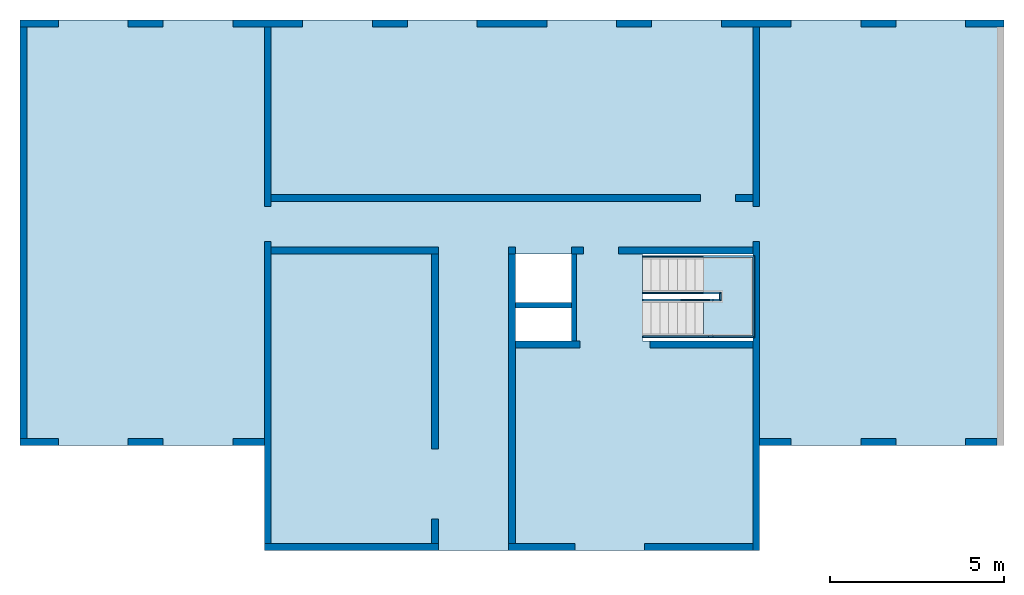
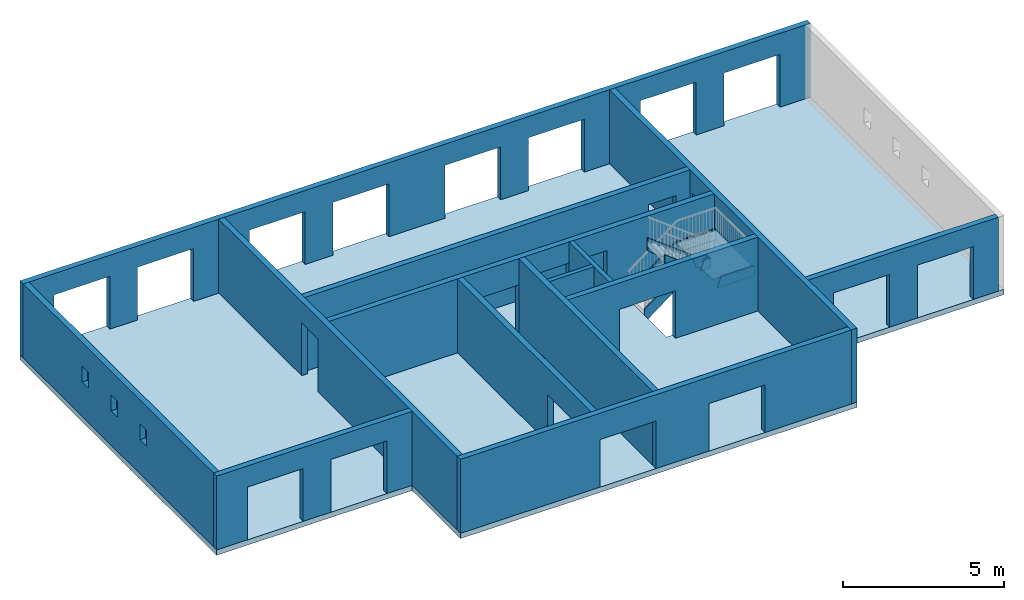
# One storey, part 1 of 3: 14 walls, 10 members, 2 slabs, 28 openings, 1 element without a shape of its own.
"""IFC2X3 building model written with IfcOpenShell, lengths in metres."""

from ifc_helpers import new_model, entity, si_unit, converted_unit, derived_unit, direction, frame, frame_2d, origin, origin_2d_with_axis, place, context, subcontext, project, spatial, polyline, rectangle, outline, extrude, faceted_brep, material, layer, layer_set, layer_usage, type_object, element, aggregate, save


model = new_model("IFC2X3")

# Units and contexts
model_context = context("Model", 3, precision=1e-05, world=origin(), true_north=direction((6.12303176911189e-17, 1.0)))
context_of_model = context(None, 3, precision=1e-05, world=origin(), true_north=direction((6.12303176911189e-17, 1.0)))
body_context = subcontext(model_context, "Body", "Model", "MODEL_VIEW")
ifc_project = project(units=[si_unit("LENGTHUNIT", "METRE"), si_unit("AREAUNIT", "SQUARE_METRE"), si_unit("VOLUMEUNIT", "CUBIC_METRE"), converted_unit("PLANEANGLEUNIT", "DEGREE", entity("IfcRatioMeasure", 0.0174532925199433), si_unit("PLANEANGLEUNIT", "RADIAN"), dimensions=[0, 0, 0, 0, 0, 0, 0]), si_unit("MASSUNIT", "GRAM", prefix="KILO"), derived_unit("MASSDENSITYUNIT", [(si_unit("MASSUNIT", "GRAM", prefix="KILO"), 1), (si_unit("LENGTHUNIT", "METRE"), -3)]), si_unit("TIMEUNIT", "SECOND"), si_unit("FREQUENCYUNIT", "HERTZ"), si_unit("THERMODYNAMICTEMPERATUREUNIT", "DEGREE_CELSIUS"), derived_unit("THERMALTRANSMITTANCEUNIT", [(si_unit("MASSUNIT", "GRAM", prefix="KILO"), 1), (si_unit("THERMODYNAMICTEMPERATUREUNIT", "KELVIN"), -1), (si_unit("TIMEUNIT", "SECOND"), -3)]), derived_unit("VOLUMETRICFLOWRATEUNIT", [(si_unit("LENGTHUNIT", "METRE"), 3), (si_unit("TIMEUNIT", "SECOND"), -1)]), si_unit("ELECTRICCURRENTUNIT", "AMPERE"), si_unit("ELECTRICVOLTAGEUNIT", "VOLT"), si_unit("POWERUNIT", "WATT"), si_unit("FORCEUNIT", "NEWTON"), si_unit("ILLUMINANCEUNIT", "LUX"), si_unit("LUMINOUSFLUXUNIT", "LUMEN"), si_unit("LUMINOUSINTENSITYUNIT", "CANDELA"), derived_unit("USERDEFINED", [(si_unit("MASSUNIT", "GRAM", prefix="KILO"), -1), (si_unit("LENGTHUNIT", "METRE"), -2), (si_unit("TIMEUNIT", "SECOND"), 3), (si_unit("LUMINOUSFLUXUNIT", "LUMEN"), 1)]), derived_unit("LINEARVELOCITYUNIT", [(si_unit("LENGTHUNIT", "METRE"), 1), (si_unit("TIMEUNIT", "SECOND"), -1)]), si_unit("PRESSUREUNIT", "PASCAL"), derived_unit("USERDEFINED", [(si_unit("LENGTHUNIT", "METRE"), -2), (si_unit("MASSUNIT", "GRAM", prefix="KILO"), 1), (si_unit("TIMEUNIT", "SECOND"), -2)])], contexts=[model_context, context_of_model])

# Site, building, storey
site_placement = place(None, origin())
site = spatial("IfcSite", under=ifc_project, at=site_placement, Name="Default", CompositionType="ELEMENT")
building_placement = place(site_placement, origin())
building = spatial("IfcBuilding", under=site, at=building_placement, CompositionType="ELEMENT")
storey_placement = place(building_placement, origin())
storey = spatial("IfcBuildingStorey", under=building, at=storey_placement, Name="Rez de Chaussée", CompositionType="ELEMENT", Elevation=0.0)

# Stair, members
stair_placement = place(storey_placement, origin())
stair = element("IfcStair", 1, at=stair_placement, inside=storey, Name="Escalier assemblé:Escalier", ObjectType="Escalier assemblé:Contremarche 190 mm max marche 250\xa0mm", ShapeType="NOTDEFINED")
member_type = type_object("IfcMemberType", Name="Limon à la française:Limon à la française - 50 mm de largeur", PredefinedType="STRINGER")
member_1_placement = place(stair_placement, origin())
member_1 = element("IfcMember", 2, at=member_1_placement, type_object=member_type, Name="Escalier assemblé:Escalier:467169 Stringer 1", ObjectType="Escalier assemblé:Contremarche 190 mm max marche 250\xa0mm", context=body_context, shape_type="SweptSolid", body=[
    extrude(outline(polyline([(-0.973212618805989, -0.2), (1.19067644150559, -0.2), (1.0569252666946, 0.199999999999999), (-1.27438908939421, 0.2), (-0.973212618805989, -0.2)])), frame((6.43043564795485, 2.2618101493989, 0.85311287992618), z_axis=(0.0, 1.0, 0.0), x_axis=(0.798870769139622, 0.0, 0.601502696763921)), (0.0, 0.0, 1.0), 0.05),
])
member_2_placement = place(stair_placement, origin())
member_2 = element("IfcMember", 3, at=member_2_placement, type_object=member_type, Name="Escalier assemblé:Escalier:467169 Stringer 2", ObjectType="Escalier assemblé:Contremarche 190 mm max marche 250\xa0mm", context=body_context, shape_type="SweptSolid", body=[
    extrude(outline(polyline([(-0.973212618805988, -0.2), (1.19067644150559, -0.2), (1.0569252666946, 0.2), (-1.27438908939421, 0.2), (-0.973212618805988, -0.2)])), frame((6.43043564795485, 1.2118101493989, 0.853112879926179), z_axis=(0.0, 1.0, 0.0), x_axis=(0.798870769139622, 0.0, 0.601502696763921)), (0.0, 0.0, 1.0), 0.0500000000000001),
])
member_3_placement = place(stair_placement, origin())
member_3 = element("IfcMember", 4, at=member_3_placement, type_object=member_type, Name="Escalier assemblé:Escalier:467169 Stringer 3", ObjectType="Escalier assemblé:Contremarche 190 mm max marche 250\xa0mm", context=body_context, shape_type="SweptSolid", body=[
    extrude(outline(polyline([(-1.2901377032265, -0.2), (1.0726738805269, -0.2), (1.37385035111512, 0.200000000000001), (-1.15638652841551, 0.2), (-1.2901377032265, -0.2)])), frame((6.50989234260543, -0.0381898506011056, 2.26487758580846), z_axis=(0.0, 1.0, 0.0), x_axis=(-0.798870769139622, 0.0, 0.601502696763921)), (0.0, 0.0, 1.0), 0.05),
])
member_4_placement = place(stair_placement, origin())
member_4 = element("IfcMember", 5, at=member_4_placement, type_object=member_type, Name="Escalier assemblé:Escalier:467169 Stringer 4", ObjectType="Escalier assemblé:Contremarche 190 mm max marche 250\xa0mm", context=body_context, shape_type="SweptSolid", body=[
    extrude(outline(polyline([(-1.2901377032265, -0.2), (1.0726738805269, -0.2), (1.37385035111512, 0.2), (-1.15638652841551, 0.2), (-1.2901377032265, -0.2)])), frame((6.50989234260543, 1.01181014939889, 2.26487758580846), z_axis=(0.0, 1.0, 0.0), x_axis=(-0.798870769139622, 0.0, 0.60150269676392)), (0.0, 0.0, 1.0), 0.05),
])
member_5_placement = place(stair_placement, frame((7.42024510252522, -0.0381898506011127, 1.32908212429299)))
member_5 = element("IfcMember", 6, at=member_5_placement, type_object=member_type, Name="Escalier assemblé:Escalier:467169 Stringer 5", ObjectType="Escalier assemblé:Contremarche 190 mm max marche 250\xa0mm", context=body_context, shape_type="Brep", body=[
    faceted_brep([(0.133751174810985, 0.0500000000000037, 0.4), (0.133751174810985, 0.0, 0.4), (1.32241889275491, 0.0, 0.4), (1.27241889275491, 0.0500000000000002, 0.4), (0.0, 0.0500000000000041, 0.0), (1.27241889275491, 0.0500000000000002, 0.0), (0.0, 0.0, 0.0), (1.32241889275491, 0.0, 0.0)], [[[0, 1, 2, 3]], [[4, 0, 3, 5]], [[6, 4, 5, 7]], [[1, 6, 7, 2]], [[1, 0, 4, 6]], [[2, 7, 5, 3]]]),
])
member_6_placement = place(stair_placement, origin())
member_6 = element("IfcMember", 7, at=member_6_placement, type_object=member_type, Name="Escalier assemblé:Escalier:467169 Stringer 6", ObjectType="Escalier assemblé:Contremarche 190 mm max marche 250\xa0mm", context=body_context, shape_type="SweptSolid", body=[
    extrude(outline(polyline([(-1.17500000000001, -0.0249999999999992), (1.17500000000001, -0.0249999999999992), (1.125, 0.0250000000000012), (-1.125, 0.0250000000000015), (-1.17500000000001, -0.0249999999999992)])), frame((8.71766399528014, 1.13681014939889, 1.32908212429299), z_axis=(0.0, 0.0, 1.0), x_axis=(0.0, 1.0, 0.0)), (0.0, 0.0, 1.0), 0.4),
])
member_7_placement = place(stair_placement, frame((7.26133171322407, 2.2618101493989, 1.32908212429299)))
member_7 = element("IfcMember", 8, at=member_7_placement, type_object=member_type, Name="Escalier assemblé:Escalier:467169 Stringer 7", ObjectType="Escalier assemblé:Contremarche 190 mm max marche 250\xa0mm", context=body_context, shape_type="Brep", body=[
    faceted_brep([(1.43133228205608, 0.0, 0.4), (1.48133228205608, 0.0499999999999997, 0.4), (0.0, 0.0500000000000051, 0.4), (0.0, 0.0, 0.4), (1.43133228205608, 0.0, 0.0), (0.133751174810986, 0.0, 0.0), (1.48133228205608, 0.0499999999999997, 0.0), (0.133751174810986, 0.0500000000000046, 0.0)], [[[0, 1, 2, 3]], [[4, 0, 3, 5]], [[6, 4, 5, 7]], [[1, 6, 7, 2]], [[1, 0, 4, 6]], [[2, 7, 5, 3]]]),
])
member_8_placement = place(stair_placement, frame((7.26133171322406, 1.2118101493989, 1.32908212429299)))
member_8 = element("IfcMember", 9, at=member_8_placement, type_object=member_type, Name="Escalier assemblé:Escalier:467169 Stringer 8", ObjectType="Escalier assemblé:Contremarche 190 mm max marche 250\xa0mm", context=body_context, shape_type="Brep", body=[
    faceted_brep([(0.0, 0.0500000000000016, 0.4), (0.0, 0.0, 0.4), (0.471332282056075, 0.0, 0.4), (0.521332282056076, 0.0499999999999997, 0.4), (0.133751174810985, 0.0500000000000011, 0.0), (0.521332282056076, 0.0499999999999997, 0.0), (0.133751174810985, 0.0, 0.0), (0.471332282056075, 0.0, 0.0)], [[[0, 1, 2, 3]], [[4, 0, 3, 5]], [[6, 4, 5, 7]], [[1, 6, 7, 2]], [[1, 0, 4, 6]], [[2, 7, 5, 3]]]),
])
member_9_placement = place(stair_placement, origin())
member_9 = element("IfcMember", 10, at=member_9_placement, type_object=member_type, Name="Escalier assemblé:Escalier:467169 Stringer 9", ObjectType="Escalier assemblé:Contremarche 190 mm max marche 250\xa0mm", context=body_context, shape_type="SweptSolid", body=[
    extrude(outline(polyline([(-0.0750000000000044, -0.0250000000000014), (0.0750000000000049, -0.0250000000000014), (0.125000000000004, 0.0249999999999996), (-0.125000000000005, 0.0249999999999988), (-0.0750000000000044, -0.0250000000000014)])), frame((7.75766399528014, 1.13681014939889, 1.32908212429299), z_axis=(0.0, 0.0, 1.0), x_axis=(0.0, -1.0, 0.0)), (0.0, 0.0, 1.0), 0.4),
])
member_10_placement = place(stair_placement, frame((7.42024510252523, 1.01181014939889, 1.32908212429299)))
member_10 = element("IfcMember", 11, at=member_10_placement, type_object=member_type, Name="Escalier assemblé:Escalier:467169 Stringer 10", ObjectType="Escalier assemblé:Contremarche 190 mm max marche 250\xa0mm", context=body_context, shape_type="Brep", body=[
    faceted_brep([(0.362418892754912, 0.0, 0.4), (0.312418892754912, 0.0500000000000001, 0.4), (0.133751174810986, 0.0500000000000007, 0.4), (0.133751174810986, 0.0, 0.4), (0.362418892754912, 0.0, 0.0), (0.0, 0.0, 0.0), (0.312418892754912, 0.0500000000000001, 0.0), (0.0, 0.0500000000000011, 0.0)], [[[0, 1, 2, 3]], [[4, 0, 3, 5]], [[6, 4, 5, 7]], [[1, 6, 7, 2]], [[1, 0, 4, 6]], [[2, 7, 5, 3]]]),
])

# Slab, openings
ifc_material_1 = material(Name="Béton - Coulé sur place - Béton20")
ifc_layer_1 = layer(ifc_material_1, 0.2)
ifc_layer_set_1 = layer_set([ifc_layer_1], Name="Sol:Dalle pleine 200 mm")
ifc_layer_usage_1 = layer_usage(ifc_layer_set_1, "AXIS3", "POSITIVE", 0.0)
slab_1_placement = place(storey_placement, origin())
slab_1 = element("IfcSlab", 12, at=slab_1_placement, inside=storey, material=ifc_layer_usage_1, Name="Sol:Dalle pleine 200 mm", ObjectType="Sol:Dalle pleine 200 mm", PredefinedType="FLOOR", context=body_context, shape_type="SweptSolid", body=[
    extrude(outline(polyline([(-14.1, 7.59999999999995), (-14.1, -4.60000000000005), (-7.1, -4.60000000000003), (-7.09999999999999, -7.60000000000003), (7.10000000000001, -7.59999999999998), (7.10000000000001, -4.59999999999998), (14.1, -4.59999999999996), (14.1, 7.60000000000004), (-14.1, 7.59999999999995)])), frame((1.79266399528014, 1.46181014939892, 0.2), z_axis=(0.0, 0.0, -1.0), x_axis=(-1.0, 0.0, 0.0)), (0.0, 0.0, 1.0), 0.2),
])
opening_1_placement = place(slab_1_placement, frame((2.69266399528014, 1.66181014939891, 0.2)))
element("IfcOpeningElement", 13, at=opening_1_placement, cuts=slab_1, Name="Sol:Dalle pleine 200 mm:2", ObjectType="Opening", context=body_context, shape_type="SweptSolid", body=[
    extrude(rectangle(XDim=1.4, YDim=1.6, at=origin_2d_with_axis()), frame((0.0, 0.0, 0.0), z_axis=(0.0, 0.0, -1.0), x_axis=(0.0, -1.0, 0.0)), (0.0, 0.0, 1.0), 0.2),
])
opening_2_placement = place(slab_1_placement, frame((2.69266399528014, 0.336810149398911, 0.2)))
element("IfcOpeningElement", 14, at=opening_2_placement, cuts=slab_1, Name="Sol:Dalle pleine 200 mm:3", ObjectType="Opening", context=body_context, shape_type="SweptSolid", body=[
    extrude(rectangle(XDim=0.95, YDim=1.6, at=origin_2d_with_axis()), frame((0.0, 0.0, 0.0), z_axis=(0.0, 0.0, -1.0), x_axis=(0.0, -1.0, 0.0)), (0.0, 0.0, 1.0), 0.2),
])
opening_3_placement = place(slab_1_placement, frame((7.11266399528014, 1.1118101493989, 0.2)))
element("IfcOpeningElement", 15, at=opening_3_placement, cuts=slab_1, Name="Sol:Dalle pleine 200 mm:4", ObjectType="Opening", context=body_context, shape_type="SweptSolid", body=[
    extrude(rectangle(XDim=3.16, YDim=2.49999999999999, at=origin_2d_with_axis()), frame((0.0, 0.0, 0.0), z_axis=(0.0, 0.0, -1.0), x_axis=(1.0, 0.0, 0.0)), (0.0, 0.0, 1.0), 0.2),
])

# Slab
slab_2_placement = place(stair_placement, origin())
slab_2 = element("IfcSlab", 16, at=slab_2_placement, Name="Escalier assemblé:Escalier:467169 Landing 1", ObjectType="Escalier assemblé:Contremarche 190 mm max marche 250\xa0mm", PredefinedType="LANDING", context=body_context, shape_type="SweptSolid", body=[
    extrude(outline(polyline([(-1.125, -0.477500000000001), (-0.125000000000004, -0.477500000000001), (-0.125000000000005, 0.0225000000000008), (0.125000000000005, 0.0225000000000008), (0.125000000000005, -0.477499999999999), (1.12500000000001, -0.477499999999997), (1.125, 0.932500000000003), (-1.12500000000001, 0.932500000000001), (-1.125, -0.477500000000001)])), frame((7.76016399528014, 1.1368101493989, 1.63235294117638), z_axis=(0.0, 0.0, 1.0), x_axis=(0.0, -1.0, 0.0)), (0.0, 0.0, 1.0), 0.05),
])

aggregate(stair, [slab_2, member_1, member_2, member_3, member_4, member_5, member_6, member_7, member_8, member_9, member_10])

# Wall, openings
ifc_layer_2 = layer(ifc_material_1, 0.2)
ifc_layer_set_2 = layer_set([ifc_layer_2], Name="Mur de base:Générique - 200 mm")
ifc_layer_usage_2 = layer_usage(ifc_layer_set_2, "AXIS2", "NEGATIVE", 0.1)
wall_type_1 = type_object("IfcWallType", Name="Mur de base:Générique - 200 mm", PredefinedType="STANDARD", material=ifc_layer_set_2)
wall_1_placement = place(storey_placement, frame((-12.3073360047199, 8.96181014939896, 0.2)))
wall_1 = element("IfcWallStandardCase", 17, at=wall_1_placement, inside=storey, type_object=wall_type_1, material=ifc_layer_usage_2, Name="Mur de base:Générique - 200 mm", ObjectType="Mur de base:Générique - 200 mm:1044", context=body_context, shape_type="SweptSolid", body=[
    extrude(rectangle(XDim=28.2, YDim=0.2, at=frame_2d((14.1, 3.19189119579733e-16), x_axis=(-1.0, 0.0))), origin(), (0.0, 0.0, 1.0), 2.80000000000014),
])
opening_4_placement = place(wall_1_placement, frame((25.1, -0.0999999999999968, 0.0)))
element("IfcOpeningElement", 18, at=opening_4_placement, cuts=wall_1, Name="M_Porte-Ouverture:2000 x 2000 mm:1", ObjectType="Opening", context=body_context, shape_type="SweptSolid", body=[
    extrude(rectangle(XDim=2.0, YDim=2.0, at=frame_2d((1.0, 1.0), x_axis=(-1.0, 0.0))), frame((0.0, 0.0, 0.0), z_axis=(0.0, 1.0, 0.0), x_axis=(0.0, 0.0, 1.0)), (0.0, 0.0, 1.0), 0.2),
])
opening_5_placement = place(wall_1_placement, frame((22.1, -0.10000000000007, 0.0)))
element("IfcOpeningElement", 19, at=opening_5_placement, cuts=wall_1, Name="M_Porte-Ouverture:2000 x 2000 mm:1", ObjectType="Opening", context=body_context, shape_type="SweptSolid", body=[
    extrude(rectangle(XDim=2.0, YDim=2.0, at=frame_2d((1.0, 1.0), x_axis=(-1.0, 0.0))), frame((0.0, 0.0, 0.0), z_axis=(0.0, 1.0, 0.0), x_axis=(0.0, 0.0, 1.0)), (0.0, 0.0, 1.0), 0.2),
])
opening_6_placement = place(wall_1_placement, frame((1.10000000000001, -0.0999999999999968, 0.0)))
element("IfcOpeningElement", 20, at=opening_6_placement, cuts=wall_1, Name="M_Porte-Ouverture:2000 x 2000 mm:1", ObjectType="Opening", context=body_context, shape_type="SweptSolid", body=[
    extrude(rectangle(XDim=2.0, YDim=2.0, at=frame_2d((1.0, 1.0), x_axis=(-1.0, 0.0))), frame((0.0, 0.0, 0.0), z_axis=(0.0, 1.0, 0.0), x_axis=(0.0, 0.0, 1.0)), (0.0, 0.0, 1.0), 0.2),
])
opening_7_placement = place(wall_1_placement, frame((4.1, -0.0999999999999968, 0.0)))
element("IfcOpeningElement", 21, at=opening_7_placement, cuts=wall_1, Name="M_Porte-Ouverture:2000 x 2000 mm:1", ObjectType="Opening", context=body_context, shape_type="SweptSolid", body=[
    extrude(rectangle(XDim=2.0, YDim=2.0, at=frame_2d((1.0, 1.0), x_axis=(-1.0, 0.0))), frame((0.0, 0.0, 0.0), z_axis=(0.0, 1.0, 0.0), x_axis=(0.0, 0.0, 1.0)), (0.0, 0.0, 1.0), 0.2),
])
opening_8_placement = place(wall_1_placement, frame((8.1, -0.0999999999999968, 0.0)))
element("IfcOpeningElement", 22, at=opening_8_placement, cuts=wall_1, Name="M_Porte-Ouverture:2000 x 2000 mm:1", ObjectType="Opening", context=body_context, shape_type="SweptSolid", body=[
    extrude(rectangle(XDim=2.0, YDim=2.0, at=frame_2d((1.0, 1.0), x_axis=(-1.0, 0.0))), frame((0.0, 0.0, 0.0), z_axis=(0.0, 1.0, 0.0), x_axis=(0.0, 0.0, 1.0)), (0.0, 0.0, 1.0), 0.2),
])
opening_9_placement = place(wall_1_placement, frame((18.1, -0.100000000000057, 0.0)))
element("IfcOpeningElement", 23, at=opening_9_placement, cuts=wall_1, Name="M_Porte-Ouverture:2000 x 2000 mm:1", ObjectType="Opening", context=body_context, shape_type="SweptSolid", body=[
    extrude(rectangle(XDim=2.0, YDim=2.0, at=frame_2d((1.0, 1.0), x_axis=(-1.0, 0.0))), frame((0.0, 0.0, 0.0), z_axis=(0.0, 1.0, 0.0), x_axis=(0.0, 0.0, 1.0)), (0.0, 0.0, 1.0), 0.2),
])
opening_10_placement = place(wall_1_placement, frame((15.1, -0.100000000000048, 0.0)))
element("IfcOpeningElement", 24, at=opening_10_placement, cuts=wall_1, Name="M_Porte-Ouverture:2000 x 2000 mm:1", ObjectType="Opening", context=body_context, shape_type="SweptSolid", body=[
    extrude(rectangle(XDim=2.0, YDim=2.0, at=frame_2d((1.0, 1.0), x_axis=(-1.0, 0.0))), frame((0.0, 0.0, 0.0), z_axis=(0.0, 1.0, 0.0), x_axis=(0.0, 0.0, 1.0)), (0.0, 0.0, 1.0), 0.2),
])
opening_11_placement = place(wall_1_placement, frame((11.1, -0.100000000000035, 0.0)))
element("IfcOpeningElement", 25, at=opening_11_placement, cuts=wall_1, Name="M_Porte-Ouverture:2000 x 2000 mm:1", ObjectType="Opening", context=body_context, shape_type="SweptSolid", body=[
    extrude(rectangle(XDim=2.0, YDim=2.0, at=frame_2d((1.0, 1.0), x_axis=(-1.0, 0.0))), frame((0.0, 0.0, 0.0), z_axis=(0.0, 1.0, 0.0), x_axis=(0.0, 0.0, 1.0)), (0.0, 0.0, 1.0), 0.2),
])

ifc_layer_usage_3 = layer_usage(ifc_layer_set_2, "AXIS2", "NEGATIVE", 0.1)
wall_2_placement = place(storey_placement, frame((15.6926639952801, -3.03818985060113, 0.2), z_axis=(0.0, 0.0, 1.0), x_axis=(-1.0, 0.0, 0.0)))
wall_2 = element("IfcWallStandardCase", 26, at=wall_2_placement, inside=storey, type_object=wall_type_1, material=ifc_layer_usage_3, Name="Mur de base:Générique - 200 mm", ObjectType="Mur de base:Générique - 200 mm:1044", context=body_context, shape_type="SweptSolid", body=[
    extrude(rectangle(XDim=6.8, YDim=0.2, at=frame_2d((3.4, 2.22044604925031e-16), x_axis=(-1.0, 0.0))), origin(), (0.0, 0.0, 1.0), 2.80000000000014),
])
opening_12_placement = place(wall_2_placement, frame((3.9, -0.100000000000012, 0.0)))
element("IfcOpeningElement", 27, at=opening_12_placement, cuts=wall_2, Name="M_Porte-Ouverture:2000 x 2000 mm:1", ObjectType="Opening", context=body_context, shape_type="SweptSolid", body=[
    extrude(rectangle(XDim=2.0, YDim=2.0, at=frame_2d((1.0, 1.0), x_axis=(-1.0, 0.0))), frame((0.0, 0.0, 0.0), z_axis=(0.0, 1.0, 0.0), x_axis=(0.0, 0.0, 1.0)), (0.0, 0.0, 1.0), 0.2),
])
opening_13_placement = place(wall_2_placement, frame((0.899999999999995, -0.100000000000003, 0.0)))
element("IfcOpeningElement", 28, at=opening_13_placement, cuts=wall_2, Name="M_Porte-Ouverture:2000 x 2000 mm:1", ObjectType="Opening", context=body_context, shape_type="SweptSolid", body=[
    extrude(rectangle(XDim=2.0, YDim=2.0, at=frame_2d((1.0, 1.0), x_axis=(-1.0, 0.0))), frame((0.0, 0.0, 0.0), z_axis=(0.0, 1.0, 0.0), x_axis=(0.0, 0.0, 1.0)), (0.0, 0.0, 1.0), 0.2),
])

# Wall, opening
ifc_layer_usage_4 = layer_usage(ifc_layer_set_2, "AXIS2", "NEGATIVE", 0.1)
wall_3_placement = place(storey_placement, frame((8.79266399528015, 8.86181014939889, 0.2), z_axis=(0.0, 0.0, 1.0), x_axis=(0.0, -1.0, 0.0)))
wall_3 = element("IfcWallStandardCase", 29, at=wall_3_placement, inside=storey, type_object=wall_type_1, material=ifc_layer_usage_4, Name="Mur de base:Générique - 200 mm", ObjectType="Mur de base:Générique - 200 mm:1044", context=body_context, shape_type="SweptSolid", body=[
    extrude(rectangle(XDim=15.0, YDim=0.2, at=frame_2d((7.5, 0.0), x_axis=(-1.0, 0.0))), origin(), (0.0, 0.0, 1.0), 2.80000000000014),
])
opening_14_placement = place(wall_3_placement, frame((5.15, -0.100000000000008, 0.0)))
element("IfcOpeningElement", 30, at=opening_14_placement, cuts=wall_3, Name="M_Porte-Ouverture:1000 x 2000 mm:1", ObjectType="Opening", context=body_context, shape_type="SweptSolid", body=[
    extrude(rectangle(XDim=2.0, YDim=1.0, at=frame_2d((1.0, 0.5), x_axis=(-1.0, 0.0))), frame((0.0, 0.0, 0.0), z_axis=(0.0, 1.0, 0.0), x_axis=(0.0, 0.0, 1.0)), (0.0, 0.0, 1.0), 0.2),
])

# Wall, openings
ifc_layer_usage_5 = layer_usage(ifc_layer_set_2, "AXIS2", "NEGATIVE", 0.1)
wall_4_placement = place(storey_placement, frame((8.69266399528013, -6.03818985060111, 0.2), z_axis=(0.0, 0.0, 1.0), x_axis=(-1.0, 0.0, 0.0)))
wall_4 = element("IfcWallStandardCase", 31, at=wall_4_placement, inside=storey, type_object=wall_type_1, material=ifc_layer_usage_5, Name="Mur de base:Générique - 200 mm", ObjectType="Mur de base:Générique - 200 mm:1044", context=body_context, shape_type="SweptSolid", body=[
    extrude(rectangle(XDim=14.0, YDim=0.2, at=frame_2d((7.0, 0.0), x_axis=(-1.0, 0.0))), origin(), (0.0, 0.0, 1.0), 2.80000000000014),
])
opening_15_placement = place(wall_4_placement, frame((7.0, -0.0999999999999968, -0.2)))
element("IfcOpeningElement", 32, at=opening_15_placement, cuts=wall_4, Name="M_Porte-Ouverture:2000 x 2000 mm:1", ObjectType="Opening", context=body_context, shape_type="SweptSolid", body=[
    extrude(rectangle(XDim=2.0, YDim=2.0, at=frame_2d((1.0, 1.0), x_axis=(-1.0, 0.0))), frame((0.0, 0.0, 0.0), z_axis=(0.0, 1.0, 0.0), x_axis=(0.0, 0.0, 1.0)), (0.0, 0.0, 1.0), 0.2),
])
opening_16_placement = place(wall_4_placement, frame((3.10000000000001, -0.100000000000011, -0.2)))
element("IfcOpeningElement", 33, at=opening_16_placement, cuts=wall_4, Name="M_Porte-Ouverture:2000 x 2000 mm:1", ObjectType="Opening", context=body_context, shape_type="SweptSolid", body=[
    extrude(rectangle(XDim=2.0, YDim=2.0, at=frame_2d((1.0, 1.0), x_axis=(-1.0, 0.0))), frame((0.0, 0.0, 0.0), z_axis=(0.0, 1.0, 0.0), x_axis=(0.0, 0.0, 1.0)), (0.0, 0.0, 1.0), 0.2),
])

# Wall, opening
ifc_layer_usage_6 = layer_usage(ifc_layer_set_2, "AXIS2", "NEGATIVE", 0.1)
wall_5_placement = place(storey_placement, frame((-5.20733600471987, -5.93818985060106, 0.2), z_axis=(0.0, 0.0, 1.0), x_axis=(0.0, 1.0, 0.0)))
wall_5 = element("IfcWallStandardCase", 34, at=wall_5_placement, inside=storey, type_object=wall_type_1, material=ifc_layer_usage_6, Name="Mur de base:Générique - 200 mm", ObjectType="Mur de base:Générique - 200 mm:1044", context=body_context, shape_type="SweptSolid", body=[
    extrude(rectangle(XDim=14.8, YDim=0.2, at=frame_2d((7.4, -1.66533453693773e-16), x_axis=(-1.0, 0.0))), origin(), (0.0, 0.0, 1.0), 2.80000000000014),
])
opening_17_placement = place(wall_5_placement, frame((8.65, -0.0999999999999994, 0.0)))
element("IfcOpeningElement", 35, at=opening_17_placement, cuts=wall_5, Name="M_Porte-Ouverture:1000 x 2000 mm:1", ObjectType="Opening", context=body_context, shape_type="SweptSolid", body=[
    extrude(rectangle(XDim=2.0, YDim=1.0, at=frame_2d((1.0, 0.500000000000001), x_axis=(-1.0, 0.0))), frame((0.0, 0.0, 0.0), z_axis=(0.0, 1.0, 0.0), x_axis=(0.0, 0.0, 1.0)), (0.0, 0.0, 1.0), 0.2),
])

# Wall, openings
ifc_layer_usage_7 = layer_usage(ifc_layer_set_2, "AXIS2", "NEGATIVE", 0.1)
wall_6_placement = place(storey_placement, frame((-5.30733600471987, -3.03818985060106, 0.2), z_axis=(0.0, 0.0, 1.0), x_axis=(-1.0, 0.0, 0.0)))
wall_6 = element("IfcWallStandardCase", 36, at=wall_6_placement, inside=storey, type_object=wall_type_1, material=ifc_layer_usage_7, Name="Mur de base:Générique - 200 mm", ObjectType="Mur de base:Générique - 200 mm:1044", context=body_context, shape_type="SweptSolid", body=[
    extrude(rectangle(XDim=7.0, YDim=0.2, at=frame_2d((3.5, 0.0), x_axis=(-1.0, 0.0))), origin(), (0.0, 0.0, 1.0), 2.80000000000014),
])
opening_18_placement = place(wall_6_placement, frame((3.9, -0.100000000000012, 0.0)))
element("IfcOpeningElement", 37, at=opening_18_placement, cuts=wall_6, Name="M_Porte-Ouverture:2000 x 2000 mm:1", ObjectType="Opening", context=body_context, shape_type="SweptSolid", body=[
    extrude(rectangle(XDim=2.0, YDim=2.0, at=frame_2d((1.0, 1.0), x_axis=(-1.0, 0.0))), frame((0.0, 0.0, 0.0), z_axis=(0.0, 1.0, 0.0), x_axis=(0.0, 0.0, 1.0)), (0.0, 0.0, 1.0), 0.2),
])
opening_19_placement = place(wall_6_placement, frame((0.900000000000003, -0.100000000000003, 0.0)))
element("IfcOpeningElement", 38, at=opening_19_placement, cuts=wall_6, Name="M_Porte-Ouverture:2000 x 2000 mm:1", ObjectType="Opening", context=body_context, shape_type="SweptSolid", body=[
    extrude(rectangle(XDim=2.0, YDim=2.0, at=frame_2d((1.0, 1.0), x_axis=(-1.0, 0.0))), frame((0.0, 0.0, 0.0), z_axis=(0.0, 1.0, 0.0), x_axis=(0.0, 0.0, 1.0)), (0.0, 0.0, 1.0), 0.2),
])

ifc_layer_usage_8 = layer_usage(ifc_layer_set_2, "AXIS2", "NEGATIVE", 0.1)
wall_7_placement = place(storey_placement, frame((-12.2073360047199, -2.93818985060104, 0.2), z_axis=(0.0, 0.0, 1.0), x_axis=(0.0, 1.0, 0.0)))
wall_7 = element("IfcWallStandardCase", 39, at=wall_7_placement, inside=storey, type_object=wall_type_1, material=ifc_layer_usage_8, Name="Mur de base:Générique - 200 mm", ObjectType="Mur de base:Générique - 200 mm:1044", context=body_context, shape_type="SweptSolid", body=[
    extrude(rectangle(XDim=11.8, YDim=0.199999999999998, at=frame_2d((5.9, -1.59594559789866e-16), x_axis=(-1.0, 0.0))), origin(), (0.0, 0.0, 1.0), 2.80000000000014),
])
opening_20_placement = place(wall_7_placement, frame((5.95, -0.1, 1.3)))
element("IfcOpeningElement", 40, at=opening_20_placement, cuts=wall_7, Name="M_Fenêtre-Ouverture carrée:0400 x 600mm:1", ObjectType="Opening", context=body_context, shape_type="SweptSolid", body=[
    extrude(rectangle(XDim=0.6, YDim=0.4, at=frame_2d((0.3, 0.2), x_axis=(-1.0, 0.0))), frame((0.0, 0.0, 0.0), z_axis=(0.0, 1.0, 0.0), x_axis=(0.0, 0.0, 1.0)), (0.0, 0.0, 1.0), 0.2),
])
opening_21_placement = place(wall_7_placement, frame((7.75, -0.1, 1.3)))
element("IfcOpeningElement", 41, at=opening_21_placement, cuts=wall_7, Name="M_Fenêtre-Ouverture carrée:0400 x 600mm:1", ObjectType="Opening", context=body_context, shape_type="SweptSolid", body=[
    extrude(rectangle(XDim=0.6, YDim=0.4, at=frame_2d((0.3, 0.2), x_axis=(-1.0, 0.0))), frame((0.0, 0.0, 0.0), z_axis=(0.0, 1.0, 0.0), x_axis=(0.0, 0.0, 1.0)), (0.0, 0.0, 1.0), 0.2),
])
opening_22_placement = place(wall_7_placement, frame((4.15, -0.1, 1.3)))
element("IfcOpeningElement", 42, at=opening_22_placement, cuts=wall_7, Name="M_Fenêtre-Ouverture carrée:0400 x 600mm:1", ObjectType="Opening", context=body_context, shape_type="SweptSolid", body=[
    extrude(rectangle(XDim=0.6, YDim=0.4, at=frame_2d((0.3, 0.2), x_axis=(-1.0, 0.0))), frame((0.0, 0.0, 0.0), z_axis=(0.0, 1.0, 0.0), x_axis=(0.0, 0.0, 1.0)), (0.0, 0.0, 1.0), 0.2),
])

# Wall, opening
ifc_layer_usage_9 = layer_usage(ifc_layer_set_2, "AXIS2", "NEGATIVE", 0.1)
wall_8_placement = place(storey_placement, frame((-5.10733600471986, 3.96181014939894, 0.2)))
wall_8 = element("IfcWallStandardCase", 43, at=wall_8_placement, inside=storey, type_object=wall_type_1, material=ifc_layer_usage_9, Name="Mur de base:Générique - 200 mm", ObjectType="Mur de base:Générique - 200 mm:1044", context=body_context, shape_type="SweptSolid", body=[
    extrude(rectangle(XDim=13.8, YDim=0.2, at=frame_2d((6.9, 2.22044604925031e-16), x_axis=(-1.0, 0.0))), origin(), (0.0, 0.0, 1.0), 2.80000000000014),
])
opening_23_placement = place(wall_8_placement, frame((12.3, -0.0999999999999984, 0.0)))
element("IfcOpeningElement", 44, at=opening_23_placement, cuts=wall_8, Name="M_Porte-Ouverture:1000 x 2000 mm:1", ObjectType="Opening", context=body_context, shape_type="SweptSolid", body=[
    extrude(rectangle(XDim=2.0, YDim=1.0, at=frame_2d((1.0, 0.500000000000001), x_axis=(-1.0, 0.0))), frame((0.0, 0.0, 0.0), z_axis=(0.0, 1.0, 0.0), x_axis=(0.0, 0.0, 1.0)), (0.0, 0.0, 1.0), 0.2),
])

# Wall, openings
ifc_layer_usage_10 = layer_usage(ifc_layer_set_2, "AXIS2", "NEGATIVE", 0.1)
wall_9_placement = place(storey_placement, frame((8.69266399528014, 2.46181014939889, 0.2), z_axis=(0.0, 0.0, 1.0), x_axis=(-1.0, 0.0, 0.0)))
wall_9 = element("IfcWallStandardCase", 45, at=wall_9_placement, inside=storey, type_object=wall_type_1, material=ifc_layer_usage_10, Name="Mur de base:Générique - 200 mm", ObjectType="Mur de base:Générique - 200 mm:1044", context=body_context, shape_type="SweptSolid", body=[
    extrude(rectangle(XDim=13.8, YDim=0.2, at=frame_2d((6.9, 8.32667268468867e-17), x_axis=(-1.0, 0.0))), origin(), (0.0, 0.0, 1.0), 2.80000000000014),
])
opening_24_placement = place(wall_9_placement, frame((3.85, -0.0999999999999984, 0.0)))
element("IfcOpeningElement", 46, at=opening_24_placement, cuts=wall_9, Name="M_Porte-Ouverture:1000 x 2000 mm:1", ObjectType="Opening", context=body_context, shape_type="SweptSolid", body=[
    extrude(rectangle(XDim=2.0, YDim=1.0, at=frame_2d((1.0, 0.5), x_axis=(-1.0, 0.0))), frame((0.0, 0.0, 0.0), z_axis=(0.0, 1.0, 0.0), x_axis=(0.0, 0.0, 1.0)), (0.0, 0.0, 1.0), 0.2),
])
opening_25_placement = place(wall_9_placement, frame((5.2, -0.0999999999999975, 0.0)))
element("IfcOpeningElement", 47, at=opening_25_placement, cuts=wall_9, Name="M_Porte-Ouverture:1600 x 2000 mm:1", ObjectType="Opening", context=body_context, shape_type="SweptSolid", body=[
    extrude(rectangle(XDim=2.0, YDim=1.6, at=frame_2d((1.0, 0.8), x_axis=(-1.0, 0.0))), frame((0.0, 0.0, 0.0), z_axis=(0.0, 1.0, 0.0), x_axis=(0.0, 0.0, 1.0)), (0.0, 0.0, 1.0), 0.2),
])
opening_26_placement = place(wall_9_placement, frame((7.0, -0.100000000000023, -0.2)))
element("IfcOpeningElement", 48, at=opening_26_placement, cuts=wall_9, Name="M_Porte-Ouverture:2000 x 2000 mm:1", ObjectType="Opening", context=body_context, shape_type="SweptSolid", body=[
    extrude(rectangle(XDim=2.0, YDim=2.0, at=frame_2d((1.0, 1.0), x_axis=(-1.0, 0.0))), frame((0.0, 0.0, 0.0), z_axis=(0.0, 1.0, 0.0), x_axis=(0.0, 0.0, 1.0)), (0.0, 0.0, 1.0), 0.2),
])

# Wall
ifc_layer_usage_11 = layer_usage(ifc_layer_set_2, "AXIS2", "NEGATIVE", 0.1)
wall_10_placement = place(storey_placement, frame((1.79266399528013, -5.93818985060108, 0.2), z_axis=(0.0, 0.0, 1.0), x_axis=(0.0, 1.0, 0.0)))
element("IfcWallStandardCase", 49, at=wall_10_placement, inside=storey, type_object=wall_type_1, material=ifc_layer_usage_11, Name="Mur de base:Générique - 200 mm", ObjectType="Mur de base:Générique - 200 mm:1044", context=body_context, shape_type="SweptSolid", body=[
    extrude(rectangle(XDim=8.3, YDim=0.2, at=frame_2d((4.15, 1.11022302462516e-16), x_axis=(-1.0, 0.0))), origin(), (0.0, 0.0, 1.0), 2.80000000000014),
])

# Wall, opening
ifc_layer_usage_12 = layer_usage(ifc_layer_set_2, "AXIS2", "NEGATIVE", 0.1)
wall_11_placement = place(storey_placement, frame((1.89266399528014, -0.238189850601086, 0.2)))
wall_11 = element("IfcWallStandardCase", 50, at=wall_11_placement, inside=storey, type_object=wall_type_1, material=ifc_layer_usage_12, Name="Mur de base:Générique - 200 mm", ObjectType="Mur de base:Générique - 200 mm:1044", context=body_context, shape_type="SweptSolid", body=[
    extrude(rectangle(XDim=6.8, YDim=0.2, at=frame_2d((3.4, 2.08166817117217e-17), x_axis=(-1.0, 0.0))), origin(), (0.0, 0.0, 1.0), 2.80000000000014),
])
opening_27_placement = place(wall_11_placement, frame((1.85, -0.0999999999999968, -0.2)))
element("IfcOpeningElement", 51, at=opening_27_placement, cuts=wall_11, Name="M_Porte-Ouverture:2000 x 2000 mm:1", ObjectType="Opening", context=body_context, shape_type="SweptSolid", body=[
    extrude(rectangle(XDim=2.0, YDim=2.0, at=frame_2d((1.0, 1.0), x_axis=(-1.0, 0.0))), frame((0.0, 0.0, 0.0), z_axis=(0.0, 1.0, 0.0), x_axis=(0.0, 0.0, 1.0)), (0.0, 0.0, 1.0), 0.2),
])

ifc_layer_usage_13 = layer_usage(ifc_layer_set_2, "AXIS2", "NEGATIVE", 0.1)
wall_12_placement = place(storey_placement, frame((-0.407336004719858, 2.36181014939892, 0.2), z_axis=(0.0, 0.0, 1.0), x_axis=(0.0, -1.0, 0.0)))
wall_12 = element("IfcWallStandardCase", 52, at=wall_12_placement, inside=storey, type_object=wall_type_1, material=ifc_layer_usage_13, Name="Mur de base:Générique - 200 mm", ObjectType="Mur de base:Générique - 200 mm:1044", context=body_context, shape_type="SweptSolid", body=[
    extrude(rectangle(XDim=8.3, YDim=0.2, at=frame_2d((4.15, -2.08166817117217e-17), x_axis=(-1.0, 0.0))), origin(), (0.0, 0.0, 1.0), 2.79999999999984),
])
opening_28_placement = place(wall_12_placement, frame((5.6, -0.0999999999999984, -0.2)))
element("IfcOpeningElement", 53, at=opening_28_placement, cuts=wall_12, Name="M_Porte-Ouverture:2000 x 2000 mm:1", ObjectType="Opening", context=body_context, shape_type="SweptSolid", body=[
    extrude(rectangle(XDim=2.0, YDim=2.0, at=frame_2d((1.0, 1.0), x_axis=(-1.0, 0.0))), frame((0.0, 0.0, 0.0), z_axis=(0.0, 1.0, 0.0), x_axis=(0.0, 0.0, 1.0)), (0.0, 0.0, 1.0), 0.2),
])

# Walls
ifc_material_2 = material(Name="Blocs béton manufacturés")
ifc_layer_3 = layer(ifc_material_2, 0.15)
ifc_layer_set_3 = layer_set([ifc_layer_3], Name="Mur de base:Générique - 150 mm")
ifc_layer_usage_14 = layer_usage(ifc_layer_set_3, "AXIS2", "NEGATIVE", 0.075)
wall_type_2 = type_object("IfcWallType", Name="Mur de base:Générique - 150 mm", PredefinedType="STANDARD", material=ifc_layer_set_3)
wall_13_placement = place(storey_placement, frame((3.56766399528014, 2.36181014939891, 0.2), z_axis=(0.0, 0.0, 1.0), x_axis=(0.0, -1.0, 0.0)))
element("IfcWallStandardCase", 54, at=wall_13_placement, inside=storey, type_object=wall_type_2, material=ifc_layer_usage_14, Name="Mur de base:Générique - 150 mm", ObjectType="Mur de base:Générique - 150 mm", context=body_context, shape_type="SweptSolid", body=[
    extrude(rectangle(XDim=2.5, YDim=0.149999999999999, at=frame_2d((1.25, -1.59594559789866e-16), x_axis=(-1.0, 0.0))), origin(), (0.0, 0.0, 1.0), 2.80000000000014),
])
ifc_layer_usage_15 = layer_usage(ifc_layer_set_3, "AXIS2", "NEGATIVE", 0.075)
wall_14_placement = place(storey_placement, frame((1.89266399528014, 0.886810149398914, 0.0)))
element("IfcWallStandardCase", 55, at=wall_14_placement, inside=storey, type_object=wall_type_2, material=ifc_layer_usage_15, Name="Mur de base:Générique - 150 mm", ObjectType="Mur de base:Générique - 150 mm", context=body_context, shape_type="SweptSolid", body=[
    extrude(rectangle(XDim=1.6, YDim=0.15, at=frame_2d((0.8, -3.46944695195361e-17), x_axis=(-1.0, 0.0))), origin(), (0.0, 0.0, 1.0), 3.00000000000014),
])

save(model, "model.ifc")
